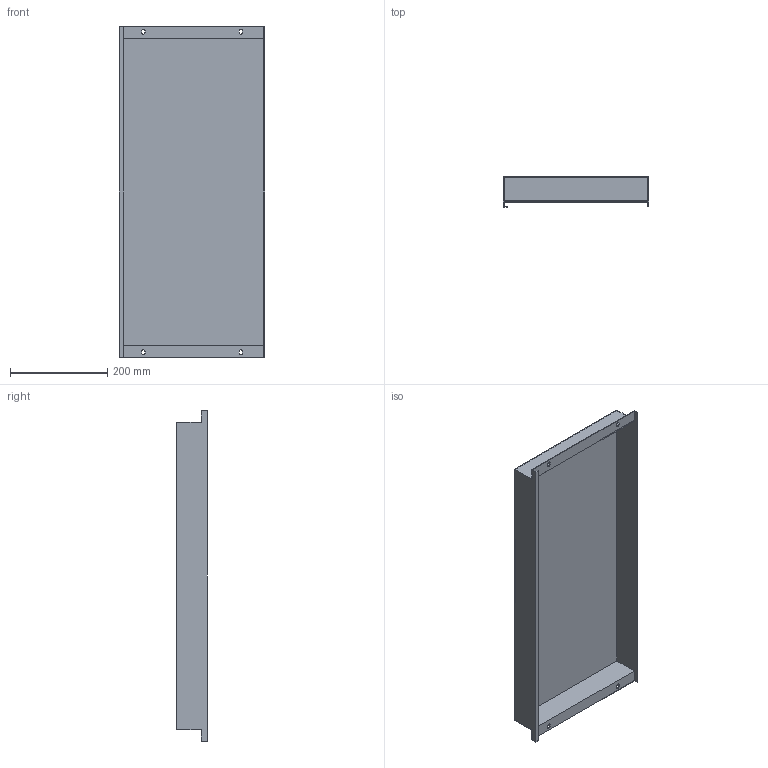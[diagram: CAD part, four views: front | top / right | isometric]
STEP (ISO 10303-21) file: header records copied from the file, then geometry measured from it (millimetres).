
FILE_DESCRIPTION (( 'STEP AP214' ), '1' );
FILE_NAME ('FO-00-PVSU-030-080 Ïëàñòðîí âíóòðåííèé óãëóáëåííûé 300õ800õ50.STEP', '2025-08-26T13:09:01', ( '' ), ( '' ), 'SwSTEP 2.0', 'SolidWorks 2023', '' );
FILE_SCHEMA (( 'AUTOMOTIVE_DESIGN' ));
Length unit declared in the file: millimetre
Products named in the file (1): FO-00-PVSU-030-080 Пластрон внутренний углубленный 300х800х50
Bounding box: 298 x 62.5 x 679 mm (x, y, z)
Volume: 437795.9 mm3; surface area: 628388.2 mm2
Topology: 1 solids, 1 shells, 42 faces, 120 edges, 80 vertices
Faces by surface type: plane 30, cylinder 12
Entity records: 1407 total; most frequent: CARTESIAN_POINT 243, ORIENTED_EDGE 240, DIRECTION 230, EDGE_CURVE 120, VECTOR 96, LINE 96, VERTEX_POINT 80, AXIS2_PLACEMENT_3D 67
